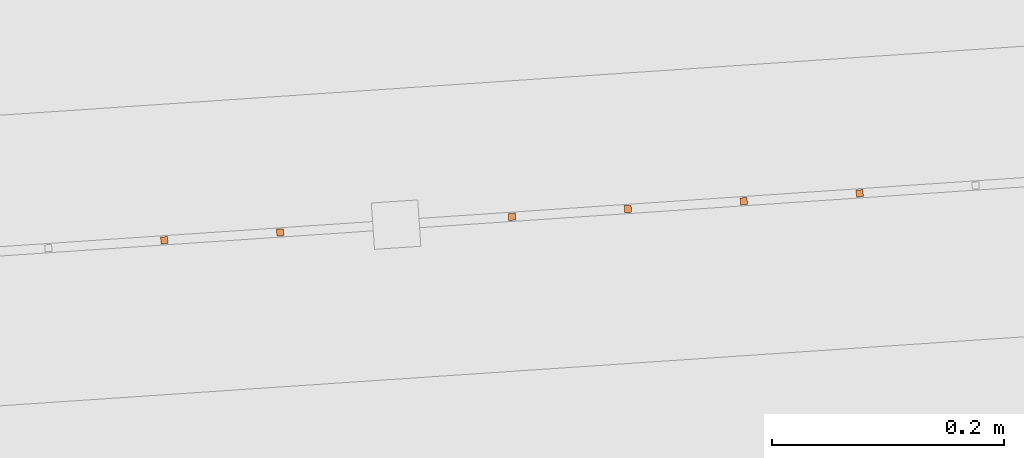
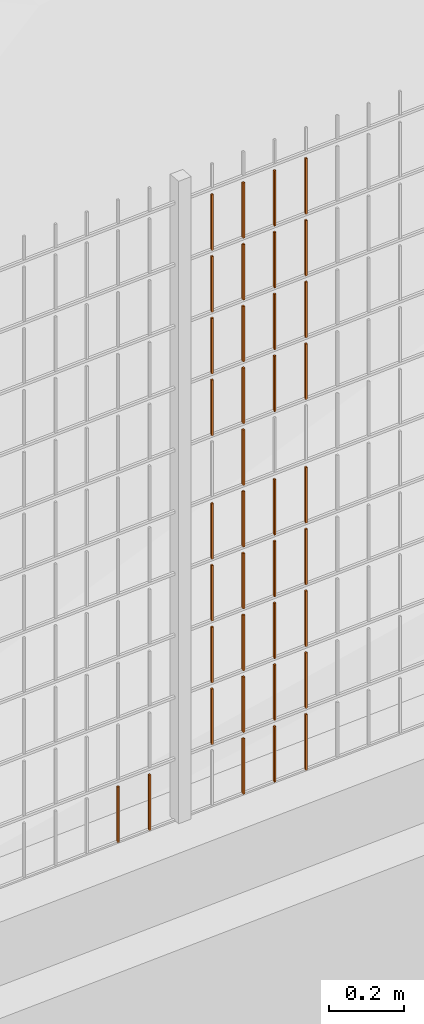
# One storey, part 74 of 1809: 38 proxies, 1 element without a shape of its own.
"""IFC2X3 building model written with IfcOpenShell, lengths in millimetres."""

from ifc_helpers import new_model, entity, si_unit, converted_unit, derived_unit, money_unit, direction, frame, origin_with_axes, place, context, subcontext, project, spatial, faceted_brep, source, transform, mapped, material, type_object, element, aggregate, save


model = new_model("IFC2X3")

# Units and contexts
model_context = context("Model", 3, precision=0.01, world=origin_with_axes(), true_north=direction((0.0, 1.0)))
body_context = subcontext(model_context, "Body", "Model", "MODEL_VIEW")
ifc_project = project(units=[si_unit("LENGTHUNIT", "METRE", prefix="MILLI"), si_unit("AREAUNIT", "SQUARE_METRE"), si_unit("VOLUMEUNIT", "CUBIC_METRE"), converted_unit("PLANEANGLEUNIT", "DEGREE", entity("IfcPlaneAngleMeasure", 0.0174532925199), si_unit("PLANEANGLEUNIT", "RADIAN"), dimensions=[0, 0, 0, 0, 0, 0, 0]), si_unit("SOLIDANGLEUNIT", "STERADIAN"), money_unit("EUR"), converted_unit("TIMEUNIT", "Year", entity("IfcTimeMeasure", 31556926.0), si_unit("TIMEUNIT", "SECOND"), dimensions=[0, 0, 1, 0, 0, 0, 0]), si_unit("MASSUNIT", "GRAM", prefix="KILO"), si_unit("THERMODYNAMICTEMPERATUREUNIT", "DEGREE_CELSIUS"), si_unit("LUMINOUSINTENSITYUNIT", "LUMEN"), si_unit("ENERGYUNIT", "JOULE", prefix="MEGA"), derived_unit("THERMALCONDUCTANCEUNIT", [(si_unit("POWERUNIT", "WATT"), 1), (si_unit("LENGTHUNIT", "METRE"), -1), (si_unit("THERMODYNAMICTEMPERATUREUNIT", "KELVIN"), -1)]), derived_unit("SPECIFICHEATCAPACITYUNIT", [(si_unit("ENERGYUNIT", "JOULE"), 1), (si_unit("MASSUNIT", "GRAM", prefix="KILO"), -1), (si_unit("THERMODYNAMICTEMPERATUREUNIT", "KELVIN"), -1)]), derived_unit("MASSDENSITYUNIT", [(si_unit("MASSUNIT", "GRAM", prefix="KILO"), 1), (si_unit("VOLUMEUNIT", "CUBIC_METRE"), -1)])], contexts=[model_context])

# Site, building, storey
site_placement = place(None, origin_with_axes())
site = spatial("IfcSite", under=ifc_project, at=site_placement, Name="Politse- ja Piirivalveameti ning Päästeameti ühishoone", CompositionType="ELEMENT")
building_placement = place(site_placement, origin_with_axes())
building = spatial("IfcBuilding", under=site, at=building_placement, Name="Politse- ja Piirivalveameti ning Päästeameti ühishoone", CompositionType="ELEMENT")
storey_placement = place(building_placement, origin_with_axes())
storey = spatial("IfcBuildingStorey", under=building, at=storey_placement, Name="Esimene korrus", CompositionType="ELEMENT", Elevation=0.0)

# Proxies
building_element_proxy_type_1 = type_object("IfcBuildingElementProxyType", Name="Railing Type", PredefinedType="NOTDEFINED")
proxy_1_placement = place(storey_placement, frame((89252.001212, -29183.4766571, 203.661247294), z_axis=(0.0, 0.0, 1.0), x_axis=(1.0, 0.0, 0.0)))
proxy_1 = element("IfcBuildingElementProxy", 1, at=proxy_1_placement, inside=storey, type_object=building_element_proxy_type_1, Name="PIIRDEAED")
ifc_material = material(Name="ET-03_Raud")
building_element_proxy_type_2 = type_object("IfcBuildingElementProxyType", Name="IfcBuildingElementProxy", PredefinedType="NOTDEFINED")
shared_shape_1 = source(origin_with_axes(), body_context, "Body", "Brep", [
    faceted_brep([(3.0, 3.0, -0.000752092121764), (-3.0, 3.0, -0.000752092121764), (-3.0, 3.0, 179.99926046), (3.0, 3.0, 179.99926046), (3.0, -3.0, 0.000752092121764), (-3.0, -3.0, 0.000752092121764), (-3.0, -3.0, 180.000764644), (3.0, -3.0, 180.000764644)], [[[0, 1, 2, 3]], [[0, 4, 5, 1]], [[1, 5, 6, 2]], [[3, 2, 6, 7]], [[4, 0, 3, 7]], [[5, 4, 7, 6]]]),
])
proxy_2_placement = place(proxy_1_placement, frame((-104388.822358, -24348.8457627, 801.004749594), z_axis=(0.0, 0.0, 1.0), x_axis=(1.0, 0.0, 0.0)))
proxy_2 = element("IfcBuildingElementProxy", 2, at=proxy_2_placement, type_object=building_element_proxy_type_2, material=ifc_material, Name="BALUSTER - 001", context=body_context, shape_type="MappedRepresentation", body=[
    mapped(shared_shape_1, transform((0.0, 0.0, 0.0), x_axis=(-0.0673926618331, 0.997726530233, 0.0), y_axis=(-0.997726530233, -0.0673926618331, 0.0), z_axis=(0.0, 0.0, 1.0))),
])
shared_shape_2 = source(origin_with_axes(), body_context, "Body", "Brep", [
    faceted_brep([(3.0, 3.0, -0.000752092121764), (-3.0, 3.0, -0.000752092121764), (-3.0, 3.0, 179.99926046), (3.0, 3.0, 179.99926046), (3.0, -3.0, 0.000752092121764), (-3.0, -3.0, 0.000752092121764), (-3.0, -3.0, 180.000764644), (3.0, -3.0, 180.000764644)], [[[0, 1, 2, 3]], [[0, 4, 5, 1]], [[1, 5, 6, 2]], [[3, 2, 6, 7]], [[4, 0, 3, 7]], [[5, 4, 7, 6]]]),
])
proxy_3_placement = place(proxy_1_placement, frame((-104189.277052, -24335.3672303, 801.054889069), z_axis=(0.0, 0.0, 1.0), x_axis=(1.0, 0.0, 0.0)))
proxy_3 = element("IfcBuildingElementProxy", 3, at=proxy_3_placement, type_object=building_element_proxy_type_2, material=ifc_material, Name="BALUSTER - 001", context=body_context, shape_type="MappedRepresentation", body=[
    mapped(shared_shape_2, transform((0.0, 0.0, 0.0), x_axis=(-0.0673926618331, 0.997726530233, 0.0), y_axis=(-0.997726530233, -0.0673926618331, 0.0), z_axis=(0.0, 0.0, 1.0))),
])
proxy_4_placement = place(proxy_1_placement, frame((-104488.595011, -24355.5850288, 1800.97967986), z_axis=(0.0, 0.0, 1.0), x_axis=(1.0, 0.0, 0.0)))
proxy_4 = element("IfcBuildingElementProxy", 4, at=proxy_4_placement, type_object=building_element_proxy_type_2, material=ifc_material, Name="BALUSTER - 001", context=body_context, shape_type="MappedRepresentation", body=[
    mapped(shared_shape_2, transform((0.0, 0.0, 0.0), x_axis=(-0.0673926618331, 0.997726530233, 0.0), y_axis=(-0.997726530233, -0.0673926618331, 0.0), z_axis=(0.0, 0.0, 1.0))),
])
shared_shape_3 = source(origin_with_axes(), body_context, "Body", "Brep", [
    faceted_brep([(3.0, 3.0, -0.000752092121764), (-3.0, 3.0, -0.000752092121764), (-3.0, 3.0, 179.99926046), (3.0, 3.0, 179.99926046), (3.0, -3.0, 0.000752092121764), (-3.0, -3.0, 0.000752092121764), (-3.0, -3.0, 180.000764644), (3.0, -3.0, 180.000764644)], [[[0, 1, 2, 3]], [[0, 4, 5, 1]], [[1, 5, 6, 2]], [[3, 2, 6, 7]], [[4, 0, 3, 7]], [[5, 4, 7, 6]]]),
])
proxy_5_placement = place(proxy_1_placement, frame((-104488.595011, -24355.5850288, 1200.97967986), z_axis=(0.0, 0.0, 1.0), x_axis=(1.0, 0.0, 0.0)))
proxy_5 = element("IfcBuildingElementProxy", 5, at=proxy_5_placement, type_object=building_element_proxy_type_2, material=ifc_material, Name="BALUSTER - 001", context=body_context, shape_type="MappedRepresentation", body=[
    mapped(shared_shape_3, transform((0.0, 0.0, 0.0), x_axis=(-0.0673926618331, 0.997726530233, 0.0), y_axis=(-0.997726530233, -0.0673926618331, 0.0), z_axis=(0.0, 0.0, 1.0))),
])
shared_shape_4 = source(origin_with_axes(), body_context, "Body", "Brep", [
    faceted_brep([(3.0, 3.0, -0.000752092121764), (-3.0, 3.0, -0.000752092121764), (-3.0, 3.0, 179.99926046), (3.0, 3.0, 179.99926046), (3.0, -3.0, 0.000752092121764), (-3.0, -3.0, 0.000752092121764), (-3.0, -3.0, 180.000764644), (3.0, -3.0, 180.000764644)], [[[0, 1, 2, 3]], [[0, 4, 5, 1]], [[1, 5, 6, 2]], [[3, 2, 6, 7]], [[4, 0, 3, 7]], [[5, 4, 7, 6]]]),
])
proxy_6_placement = place(proxy_1_placement, frame((-104388.822358, -24348.8457627, 201.004749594), z_axis=(0.0, 0.0, 1.0), x_axis=(1.0, 0.0, 0.0)))
proxy_6 = element("IfcBuildingElementProxy", 6, at=proxy_6_placement, type_object=building_element_proxy_type_2, material=ifc_material, Name="BALUSTER - 001", context=body_context, shape_type="MappedRepresentation", body=[
    mapped(shared_shape_4, transform((0.0, 0.0, 0.0), x_axis=(-0.0673926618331, 0.997726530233, 0.0), y_axis=(-0.997726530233, -0.0673926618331, 0.0), z_axis=(0.0, 0.0, 1.0))),
])
proxy_7_placement = place(proxy_1_placement, frame((-104388.822358, -24348.8457627, 401.004749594), z_axis=(0.0, 0.0, 1.0), x_axis=(1.0, 0.0, 0.0)))
proxy_7 = element("IfcBuildingElementProxy", 7, at=proxy_7_placement, type_object=building_element_proxy_type_2, material=ifc_material, Name="BALUSTER - 001", context=body_context, shape_type="MappedRepresentation", body=[
    mapped(shared_shape_4, transform((0.0, 0.0, 0.0), x_axis=(-0.0673926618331, 0.997726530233, 0.0), y_axis=(-0.997726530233, -0.0673926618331, 0.0), z_axis=(0.0, 0.0, 1.0))),
])
proxy_8_placement = place(proxy_1_placement, frame((-104189.277052, -24335.3672303, 601.054889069), z_axis=(0.0, 0.0, 1.0), x_axis=(1.0, 0.0, 0.0)))
proxy_8 = element("IfcBuildingElementProxy", 8, at=proxy_8_placement, type_object=building_element_proxy_type_2, material=ifc_material, Name="BALUSTER - 001", context=body_context, shape_type="MappedRepresentation", body=[
    mapped(shared_shape_4, transform((0.0, 0.0, 0.0), x_axis=(-0.0673926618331, 0.997726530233, 0.0), y_axis=(-0.997726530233, -0.0673926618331, 0.0), z_axis=(0.0, 0.0, 1.0))),
])
proxy_9_placement = place(proxy_1_placement, frame((-104388.822358, -24348.8457627, 601.004749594), z_axis=(0.0, 0.0, 1.0), x_axis=(1.0, 0.0, 0.0)))
proxy_9 = element("IfcBuildingElementProxy", 9, at=proxy_9_placement, type_object=building_element_proxy_type_2, material=ifc_material, Name="BALUSTER - 001", context=body_context, shape_type="MappedRepresentation", body=[
    mapped(shared_shape_4, transform((0.0, 0.0, 0.0), x_axis=(-0.0673926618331, 0.997726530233, 0.0), y_axis=(-0.997726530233, -0.0673926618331, 0.0), z_axis=(0.0, 0.0, 1.0))),
])
shared_shape_5 = source(origin_with_axes(), body_context, "Body", "Brep", [
    faceted_brep([(3.0, 3.0, -0.000752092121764), (-3.0, 3.0, -0.000752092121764), (-3.0, 3.0, 179.99926046), (3.0, 3.0, 179.99926046), (3.0, -3.0, 0.000752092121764), (-3.0, -3.0, 0.000752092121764), (-3.0, -3.0, 180.000764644), (3.0, -3.0, 180.000764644)], [[[0, 1, 2, 3]], [[0, 4, 5, 1]], [[1, 5, 6, 2]], [[3, 2, 6, 7]], [[4, 0, 3, 7]], [[5, 4, 7, 6]]]),
])
proxy_10_placement = place(proxy_1_placement, frame((-104388.822358, -24348.8457627, 1.00474959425), z_axis=(0.0, 0.0, 1.0), x_axis=(1.0, 0.0, 0.0)))
proxy_10 = element("IfcBuildingElementProxy", 10, at=proxy_10_placement, type_object=building_element_proxy_type_2, material=ifc_material, Name="BALUSTER - 001", context=body_context, shape_type="MappedRepresentation", body=[
    mapped(shared_shape_5, transform((0.0, 0.0, 0.0), x_axis=(-0.0673926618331, 0.997726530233, 0.0), y_axis=(-0.997726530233, -0.0673926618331, 0.0), z_axis=(0.0, 0.0, 1.0))),
])
shared_shape_6 = source(origin_with_axes(), body_context, "Body", "Brep", [
    faceted_brep([(3.0, 3.0, -0.000752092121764), (-3.0, 3.0, -0.000752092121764), (-3.0, 3.0, 179.99926046), (3.0, 3.0, 179.99926046), (3.0, -3.0, 0.000752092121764), (-3.0, -3.0, 0.000752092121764), (-3.0, -3.0, 180.000764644), (3.0, -3.0, 180.000764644)], [[[0, 1, 2, 3]], [[0, 4, 5, 1]], [[1, 5, 6, 2]], [[3, 2, 6, 7]], [[4, 0, 3, 7]], [[5, 4, 7, 6]]]),
])
proxy_11_placement = place(proxy_1_placement, frame((-104289.049705, -24342.1064965, 1.02981933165), z_axis=(0.0, 0.0, 1.0), x_axis=(1.0, 0.0, 0.0)))
proxy_11 = element("IfcBuildingElementProxy", 11, at=proxy_11_placement, type_object=building_element_proxy_type_2, material=ifc_material, Name="BALUSTER - 001", context=body_context, shape_type="MappedRepresentation", body=[
    mapped(shared_shape_6, transform((0.0, 0.0, 0.0), x_axis=(-0.0673926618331, 0.997726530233, 0.0), y_axis=(-0.997726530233, -0.0673926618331, 0.0), z_axis=(0.0, 0.0, 1.0))),
])
shared_shape_7 = source(origin_with_axes(), body_context, "Body", "Brep", [
    faceted_brep([(3.0, 3.0, -0.000752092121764), (-3.0, 3.0, -0.000752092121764), (-3.0, 3.0, 179.99926046), (3.0, 3.0, 179.99926046), (3.0, -3.0, 0.000752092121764), (-3.0, -3.0, 0.000752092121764), (-3.0, -3.0, 180.000764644), (3.0, -3.0, 180.000764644)], [[[0, 1, 2, 3]], [[0, 4, 5, 1]], [[1, 5, 6, 2]], [[3, 2, 6, 7]], [[4, 0, 3, 7]], [[5, 4, 7, 6]]]),
])
proxy_12_placement = place(proxy_1_placement, frame((-104289.049705, -24342.1064965, 401.029819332), z_axis=(0.0, 0.0, 1.0), x_axis=(1.0, 0.0, 0.0)))
proxy_12 = element("IfcBuildingElementProxy", 12, at=proxy_12_placement, type_object=building_element_proxy_type_2, material=ifc_material, Name="BALUSTER - 001", context=body_context, shape_type="MappedRepresentation", body=[
    mapped(shared_shape_7, transform((0.0, 0.0, 0.0), x_axis=(-0.0673926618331, 0.997726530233, 0.0), y_axis=(-0.997726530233, -0.0673926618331, 0.0), z_axis=(0.0, 0.0, 1.0))),
])
proxy_13_placement = place(proxy_1_placement, frame((-104289.049705, -24342.1064965, 601.029819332), z_axis=(0.0, 0.0, 1.0), x_axis=(1.0, 0.0, 0.0)))
proxy_13 = element("IfcBuildingElementProxy", 13, at=proxy_13_placement, type_object=building_element_proxy_type_2, material=ifc_material, Name="BALUSTER - 001", context=body_context, shape_type="MappedRepresentation", body=[
    mapped(shared_shape_7, transform((0.0, 0.0, 0.0), x_axis=(-0.0673926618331, 0.997726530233, 0.0), y_axis=(-0.997726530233, -0.0673926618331, 0.0), z_axis=(0.0, 0.0, 1.0))),
])
shared_shape_8 = source(origin_with_axes(), body_context, "Body", "Brep", [
    faceted_brep([(3.0, 3.0, -0.000752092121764), (-3.0, 3.0, -0.000752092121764), (-3.0, 3.0, 179.99926046), (3.0, 3.0, 179.99926046), (3.0, -3.0, 0.000752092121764), (-3.0, -3.0, 0.000752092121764), (-3.0, -3.0, 180.000764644), (3.0, -3.0, 180.000764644)], [[[0, 1, 2, 3]], [[0, 4, 5, 1]], [[1, 5, 6, 2]], [[3, 2, 6, 7]], [[4, 0, 3, 7]], [[5, 4, 7, 6]]]),
])
proxy_14_placement = place(proxy_1_placement, frame((-104289.049705, -24342.1064965, 201.029819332), z_axis=(0.0, 0.0, 1.0), x_axis=(1.0, 0.0, 0.0)))
proxy_14 = element("IfcBuildingElementProxy", 14, at=proxy_14_placement, type_object=building_element_proxy_type_2, material=ifc_material, Name="BALUSTER - 001", context=body_context, shape_type="MappedRepresentation", body=[
    mapped(shared_shape_8, transform((0.0, 0.0, 0.0), x_axis=(-0.0673926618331, 0.997726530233, 0.0), y_axis=(-0.997726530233, -0.0673926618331, 0.0), z_axis=(0.0, 0.0, 1.0))),
])
shared_shape_9 = source(origin_with_axes(), body_context, "Body", "Brep", [
    faceted_brep([(3.0, 3.0, -0.000752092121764), (-3.0, 3.0, -0.000752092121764), (-3.0, 3.0, 179.99926046), (3.0, 3.0, 179.99926046), (3.0, -3.0, 0.000752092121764), (-3.0, -3.0, 0.000752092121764), (-3.0, -3.0, 180.000764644), (3.0, -3.0, 180.000764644)], [[[0, 1, 2, 3]], [[0, 4, 5, 1]], [[1, 5, 6, 2]], [[3, 2, 6, 7]], [[4, 0, 3, 7]], [[5, 4, 7, 6]]]),
])
proxy_15_placement = place(proxy_1_placement, frame((-104289.049705, -24342.1064965, 1801.02981933), z_axis=(0.0, 0.0, 1.0), x_axis=(1.0, 0.0, 0.0)))
proxy_15 = element("IfcBuildingElementProxy", 15, at=proxy_15_placement, type_object=building_element_proxy_type_2, material=ifc_material, Name="BALUSTER - 001", context=body_context, shape_type="MappedRepresentation", body=[
    mapped(shared_shape_9, transform((0.0, 0.0, 0.0), x_axis=(-0.0673926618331, 0.997726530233, 0.0), y_axis=(-0.997726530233, -0.0673926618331, 0.0), z_axis=(0.0, 0.0, 1.0))),
])
proxy_16_placement = place(proxy_1_placement, frame((-104388.822358, -24348.8457627, 1801.00474959), z_axis=(0.0, 0.0, 1.0), x_axis=(1.0, 0.0, 0.0)))
proxy_16 = element("IfcBuildingElementProxy", 16, at=proxy_16_placement, type_object=building_element_proxy_type_2, material=ifc_material, Name="BALUSTER - 001", context=body_context, shape_type="MappedRepresentation", body=[
    mapped(shared_shape_9, transform((0.0, 0.0, 0.0), x_axis=(-0.0673926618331, 0.997726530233, 0.0), y_axis=(-0.997726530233, -0.0673926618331, 0.0), z_axis=(0.0, 0.0, 1.0))),
])
shared_shape_10 = source(origin_with_axes(), body_context, "Body", "Brep", [
    faceted_brep([(3.0, 3.0, -0.000752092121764), (-3.0, 3.0, -0.000752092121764), (-3.0, 3.0, 179.99926046), (3.0, 3.0, 179.99926046), (3.0, -3.0, 0.000752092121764), (-3.0, -3.0, 0.000752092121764), (-3.0, -3.0, 180.000764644), (3.0, -3.0, 180.000764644)], [[[0, 1, 2, 3]], [[0, 4, 5, 1]], [[1, 5, 6, 2]], [[3, 2, 6, 7]], [[4, 0, 3, 7]], [[5, 4, 7, 6]]]),
])
proxy_17_placement = place(proxy_1_placement, frame((-104488.595011, -24355.5850288, 1400.97967986), z_axis=(0.0, 0.0, 1.0), x_axis=(1.0, 0.0, 0.0)))
proxy_17 = element("IfcBuildingElementProxy", 17, at=proxy_17_placement, type_object=building_element_proxy_type_2, material=ifc_material, Name="BALUSTER - 001", context=body_context, shape_type="MappedRepresentation", body=[
    mapped(shared_shape_10, transform((0.0, 0.0, 0.0), x_axis=(-0.0673926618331, 0.997726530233, 0.0), y_axis=(-0.997726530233, -0.0673926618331, 0.0), z_axis=(0.0, 0.0, 1.0))),
])
proxy_18_placement = place(proxy_1_placement, frame((-104488.595011, -24355.5850288, 1600.97967986), z_axis=(0.0, 0.0, 1.0), x_axis=(1.0, 0.0, 0.0)))
proxy_18 = element("IfcBuildingElementProxy", 18, at=proxy_18_placement, type_object=building_element_proxy_type_2, material=ifc_material, Name="BALUSTER - 001", context=body_context, shape_type="MappedRepresentation", body=[
    mapped(shared_shape_10, transform((0.0, 0.0, 0.0), x_axis=(-0.0673926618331, 0.997726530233, 0.0), y_axis=(-0.997726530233, -0.0673926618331, 0.0), z_axis=(0.0, 0.0, 1.0))),
])
shared_shape_11 = source(origin_with_axes(), body_context, "Body", "Brep", [
    faceted_brep([(3.0, 3.0, -0.000752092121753), (-3.0, 3.0, -0.000752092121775), (-3.0, 3.0, 179.99926046), (3.0, 3.0, 179.99926046), (3.0, -3.0, 0.000752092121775), (-3.0, -3.0, 0.000752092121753), (-3.0, -3.0, 180.000764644), (3.0, -3.0, 180.000764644)], [[[0, 1, 2, 3]], [[0, 4, 5, 1]], [[1, 5, 6, 2]], [[3, 2, 6, 7]], [[4, 0, 3, 7]], [[5, 4, 7, 6]]]),
])
proxy_19_placement = place(proxy_1_placement, frame((-104488.595011, -24355.5850288, 400.979679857), z_axis=(0.0, 0.0, 1.0), x_axis=(1.0, 0.0, 0.0)))
proxy_19 = element("IfcBuildingElementProxy", 19, at=proxy_19_placement, type_object=building_element_proxy_type_2, material=ifc_material, Name="BALUSTER - 001", context=body_context, shape_type="MappedRepresentation", body=[
    mapped(shared_shape_11, transform((0.0, 0.0, 0.0), x_axis=(-0.0673926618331, 0.997726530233, 0.0), y_axis=(-0.997726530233, -0.0673926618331, 0.0), z_axis=(0.0, 0.0, 1.0))),
])
shared_shape_12 = source(origin_with_axes(), body_context, "Body", "Brep", [
    faceted_brep([(3.0, 3.0, -0.000752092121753), (-3.0, 3.0, -0.000752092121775), (-3.0, 3.0, 179.99926046), (3.0, 3.0, 179.99926046), (3.0, -3.0, 0.000752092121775), (-3.0, -3.0, 0.000752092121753), (-3.0, -3.0, 180.000764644), (3.0, -3.0, 180.000764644)], [[[0, 1, 2, 3]], [[0, 4, 5, 1]], [[1, 5, 6, 2]], [[3, 2, 6, 7]], [[4, 0, 3, 7]], [[5, 4, 7, 6]]]),
])
proxy_20_placement = place(proxy_1_placement, frame((-104488.595011, -24355.5850288, 200.979679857), z_axis=(0.0, 0.0, 1.0), x_axis=(1.0, 0.0, 0.0)))
proxy_20 = element("IfcBuildingElementProxy", 20, at=proxy_20_placement, type_object=building_element_proxy_type_2, material=ifc_material, Name="BALUSTER - 001", context=body_context, shape_type="MappedRepresentation", body=[
    mapped(shared_shape_12, transform((0.0, 0.0, 0.0), x_axis=(-0.0673926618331, 0.997726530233, 0.0), y_axis=(-0.997726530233, -0.0673926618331, 0.0), z_axis=(0.0, 0.0, 1.0))),
])
proxy_21_placement = place(proxy_1_placement, frame((-104488.595011, -24355.5850288, 600.979679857), z_axis=(0.0, 0.0, 1.0), x_axis=(1.0, 0.0, 0.0)))
proxy_21 = element("IfcBuildingElementProxy", 21, at=proxy_21_placement, type_object=building_element_proxy_type_2, material=ifc_material, Name="BALUSTER - 001", context=body_context, shape_type="MappedRepresentation", body=[
    mapped(shared_shape_12, transform((0.0, 0.0, 0.0), x_axis=(-0.0673926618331, 0.997726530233, 0.0), y_axis=(-0.997726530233, -0.0673926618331, 0.0), z_axis=(0.0, 0.0, 1.0))),
])
shared_shape_13 = source(origin_with_axes(), body_context, "Body", "Brep", [
    faceted_brep([(3.0, 3.0, -0.000752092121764), (-3.0, 3.0, -0.000752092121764), (-3.0, 3.0, 179.99926046), (3.0, 3.0, 179.99926046), (3.0, -3.0, 0.000752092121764), (-3.0, -3.0, 0.000752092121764), (-3.0, -3.0, 180.000764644), (3.0, -3.0, 180.000764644)], [[[0, 1, 2, 3]], [[0, 4, 5, 1]], [[1, 5, 6, 2]], [[3, 2, 6, 7]], [[4, 0, 3, 7]], [[5, 4, 7, 6]]]),
])
proxy_22_placement = place(proxy_1_placement, frame((-104289.049705, -24342.1064965, 801.029819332), z_axis=(0.0, 0.0, 1.0), x_axis=(1.0, 0.0, 0.0)))
proxy_22 = element("IfcBuildingElementProxy", 22, at=proxy_22_placement, type_object=building_element_proxy_type_2, material=ifc_material, Name="BALUSTER - 001", context=body_context, shape_type="MappedRepresentation", body=[
    mapped(shared_shape_13, transform((0.0, 0.0, 0.0), x_axis=(-0.0673926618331, 0.997726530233, 0.0), y_axis=(-0.997726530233, -0.0673926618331, 0.0), z_axis=(0.0, 0.0, 1.0))),
])
proxy_23_placement = place(proxy_1_placement, frame((-104289.049705, -24342.1064965, 1201.02981933), z_axis=(0.0, 0.0, 1.0), x_axis=(1.0, 0.0, 0.0)))
proxy_23 = element("IfcBuildingElementProxy", 23, at=proxy_23_placement, type_object=building_element_proxy_type_2, material=ifc_material, Name="BALUSTER - 001", context=body_context, shape_type="MappedRepresentation", body=[
    mapped(shared_shape_13, transform((0.0, 0.0, 0.0), x_axis=(-0.0673926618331, 0.997726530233, 0.0), y_axis=(-0.997726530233, -0.0673926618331, 0.0), z_axis=(0.0, 0.0, 1.0))),
])
proxy_24_placement = place(proxy_1_placement, frame((-104388.822358, -24348.8457627, 1201.00474959), z_axis=(0.0, 0.0, 1.0), x_axis=(1.0, 0.0, 0.0)))
proxy_24 = element("IfcBuildingElementProxy", 24, at=proxy_24_placement, type_object=building_element_proxy_type_2, material=ifc_material, Name="BALUSTER - 001", context=body_context, shape_type="MappedRepresentation", body=[
    mapped(shared_shape_13, transform((0.0, 0.0, 0.0), x_axis=(-0.0673926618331, 0.997726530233, 0.0), y_axis=(-0.997726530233, -0.0673926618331, 0.0), z_axis=(0.0, 0.0, 1.0))),
])
shared_shape_14 = source(origin_with_axes(), body_context, "Body", "Brep", [
    faceted_brep([(3.0, 3.0, -0.000752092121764), (-3.0, 3.0, -0.000752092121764), (-3.0, 3.0, 179.99926046), (3.0, 3.0, 179.99926046), (3.0, -3.0, 0.000752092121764), (-3.0, -3.0, 0.000752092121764), (-3.0, -3.0, 180.000764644), (3.0, -3.0, 180.000764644)], [[[0, 1, 2, 3]], [[0, 4, 5, 1]], [[1, 5, 6, 2]], [[3, 2, 6, 7]], [[4, 0, 3, 7]], [[5, 4, 7, 6]]]),
])
proxy_25_placement = place(proxy_1_placement, frame((-104289.049705, -24342.1064965, 1401.02981933), z_axis=(0.0, 0.0, 1.0), x_axis=(1.0, 0.0, 0.0)))
proxy_25 = element("IfcBuildingElementProxy", 25, at=proxy_25_placement, type_object=building_element_proxy_type_2, material=ifc_material, Name="BALUSTER - 001", context=body_context, shape_type="MappedRepresentation", body=[
    mapped(shared_shape_14, transform((0.0, 0.0, 0.0), x_axis=(-0.0673926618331, 0.997726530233, 0.0), y_axis=(-0.997726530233, -0.0673926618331, 0.0), z_axis=(0.0, 0.0, 1.0))),
])
proxy_26_placement = place(proxy_1_placement, frame((-104388.822358, -24348.8457627, 1401.00474959), z_axis=(0.0, 0.0, 1.0), x_axis=(1.0, 0.0, 0.0)))
proxy_26 = element("IfcBuildingElementProxy", 26, at=proxy_26_placement, type_object=building_element_proxy_type_2, material=ifc_material, Name="BALUSTER - 001", context=body_context, shape_type="MappedRepresentation", body=[
    mapped(shared_shape_14, transform((0.0, 0.0, 0.0), x_axis=(-0.0673926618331, 0.997726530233, 0.0), y_axis=(-0.997726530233, -0.0673926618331, 0.0), z_axis=(0.0, 0.0, 1.0))),
])
proxy_27_placement = place(proxy_1_placement, frame((-104289.049705, -24342.1064965, 1601.02981933), z_axis=(0.0, 0.0, 1.0), x_axis=(1.0, 0.0, 0.0)))
proxy_27 = element("IfcBuildingElementProxy", 27, at=proxy_27_placement, type_object=building_element_proxy_type_2, material=ifc_material, Name="BALUSTER - 001", context=body_context, shape_type="MappedRepresentation", body=[
    mapped(shared_shape_14, transform((0.0, 0.0, 0.0), x_axis=(-0.0673926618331, 0.997726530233, 0.0), y_axis=(-0.997726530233, -0.0673926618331, 0.0), z_axis=(0.0, 0.0, 1.0))),
])
proxy_28_placement = place(proxy_1_placement, frame((-104388.822358, -24348.8457627, 1601.00474959), z_axis=(0.0, 0.0, 1.0), x_axis=(1.0, 0.0, 0.0)))
proxy_28 = element("IfcBuildingElementProxy", 28, at=proxy_28_placement, type_object=building_element_proxy_type_2, material=ifc_material, Name="BALUSTER - 001", context=body_context, shape_type="MappedRepresentation", body=[
    mapped(shared_shape_14, transform((0.0, 0.0, 0.0), x_axis=(-0.0673926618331, 0.997726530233, 0.0), y_axis=(-0.997726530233, -0.0673926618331, 0.0), z_axis=(0.0, 0.0, 1.0))),
])
shared_shape_15 = source(origin_with_axes(), body_context, "Body", "Brep", [
    faceted_brep([(3.0, 3.0, -0.000752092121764), (-3.0, 3.0, -0.000752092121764), (-3.0, 3.0, 179.99926046), (3.0, 3.0, 179.99926046), (3.0, -3.0, 0.000752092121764), (-3.0, -3.0, 0.000752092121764), (-3.0, -3.0, 180.000764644), (3.0, -3.0, 180.000764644)], [[[0, 1, 2, 3]], [[0, 4, 5, 1]], [[1, 5, 6, 2]], [[3, 2, 6, 7]], [[4, 0, 3, 7]], [[5, 4, 7, 6]]]),
])
proxy_29_placement = place(proxy_1_placement, frame((-104189.277052, -24335.3672303, 401.054889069), z_axis=(0.0, 0.0, 1.0), x_axis=(1.0, 0.0, 0.0)))
proxy_29 = element("IfcBuildingElementProxy", 29, at=proxy_29_placement, type_object=building_element_proxy_type_2, material=ifc_material, Name="BALUSTER - 001", context=body_context, shape_type="MappedRepresentation", body=[
    mapped(shared_shape_15, transform((0.0, 0.0, 0.0), x_axis=(-0.0673926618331, 0.997726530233, 0.0), y_axis=(-0.997726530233, -0.0673926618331, 0.0), z_axis=(0.0, 0.0, 1.0))),
])
shared_shape_16 = source(origin_with_axes(), body_context, "Body", "Brep", [
    faceted_brep([(3.0, 3.0, -0.000752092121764), (-3.0, 3.0, -0.000752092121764), (-3.0, 3.0, 179.99926046), (3.0, 3.0, 179.99926046), (3.0, -3.0, 0.000752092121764), (-3.0, -3.0, 0.000752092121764), (-3.0, -3.0, 180.000764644), (3.0, -3.0, 180.000764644)], [[[0, 1, 2, 3]], [[0, 4, 5, 1]], [[1, 5, 6, 2]], [[3, 2, 6, 7]], [[4, 0, 3, 7]], [[5, 4, 7, 6]]]),
])
proxy_30_placement = place(proxy_1_placement, frame((-104189.277052, -24335.3672303, 1.05488906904), z_axis=(0.0, 0.0, 1.0), x_axis=(1.0, 0.0, 0.0)))
proxy_30 = element("IfcBuildingElementProxy", 30, at=proxy_30_placement, type_object=building_element_proxy_type_2, material=ifc_material, Name="BALUSTER - 001", context=body_context, shape_type="MappedRepresentation", body=[
    mapped(shared_shape_16, transform((0.0, 0.0, 0.0), x_axis=(-0.0673926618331, 0.997726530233, 0.0), y_axis=(-0.997726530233, -0.0673926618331, 0.0), z_axis=(0.0, 0.0, 1.0))),
])
proxy_31_placement = place(proxy_1_placement, frame((-104787.91297, -24375.8028274, 0.904470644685), z_axis=(0.0, 0.0, 1.0), x_axis=(1.0, 0.0, 0.0)))
proxy_31 = element("IfcBuildingElementProxy", 31, at=proxy_31_placement, type_object=building_element_proxy_type_2, material=ifc_material, Name="BALUSTER - 001", context=body_context, shape_type="MappedRepresentation", body=[
    mapped(shared_shape_16, transform((0.0, 0.0, 0.0), x_axis=(-0.0673926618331, 0.997726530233, 0.0), y_axis=(-0.997726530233, -0.0673926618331, 0.0), z_axis=(0.0, 0.0, 1.0))),
])
shared_shape_17 = source(origin_with_axes(), body_context, "Body", "Brep", [
    faceted_brep([(3.0, 3.0, -0.000752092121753), (-3.0, 3.0, -0.000752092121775), (-3.0, 3.0, 179.99926046), (3.0, 3.0, 179.99926046), (3.0, -3.0, 0.000752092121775), (-3.0, -3.0, 0.000752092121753), (-3.0, -3.0, 180.000764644), (3.0, -3.0, 180.000764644)], [[[0, 1, 2, 3]], [[0, 4, 5, 1]], [[1, 5, 6, 2]], [[3, 2, 6, 7]], [[4, 0, 3, 7]], [[5, 4, 7, 6]]]),
])
proxy_32_placement = place(proxy_1_placement, frame((-104488.595011, -24355.5850288, 800.979679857), z_axis=(0.0, 0.0, 1.0), x_axis=(1.0, 0.0, 0.0)))
proxy_32 = element("IfcBuildingElementProxy", 32, at=proxy_32_placement, type_object=building_element_proxy_type_2, material=ifc_material, Name="BALUSTER - 001", context=body_context, shape_type="MappedRepresentation", body=[
    mapped(shared_shape_17, transform((0.0, 0.0, 0.0), x_axis=(-0.0673926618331, 0.997726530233, 0.0), y_axis=(-0.997726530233, -0.0673926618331, 0.0), z_axis=(0.0, 0.0, 1.0))),
])
proxy_33_placement = place(proxy_1_placement, frame((-104189.277052, -24335.3672303, 1801.05488907), z_axis=(0.0, 0.0, 1.0), x_axis=(1.0, 0.0, 0.0)))
proxy_33 = element("IfcBuildingElementProxy", 33, at=proxy_33_placement, type_object=building_element_proxy_type_2, material=ifc_material, Name="BALUSTER - 001", context=body_context, shape_type="MappedRepresentation", body=[
    mapped(shared_shape_17, transform((0.0, 0.0, 0.0), x_axis=(-0.0673926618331, 0.997726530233, 0.0), y_axis=(-0.997726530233, -0.0673926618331, 0.0), z_axis=(0.0, 0.0, 1.0))),
])
shared_shape_18 = source(origin_with_axes(), body_context, "Body", "Brep", [
    faceted_brep([(3.0, 3.0, -0.000752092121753), (-3.0, 3.0, -0.000752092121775), (-3.0, 3.0, 179.99926046), (3.0, 3.0, 179.99926046), (3.0, -3.0, 0.000752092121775), (-3.0, -3.0, 0.000752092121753), (-3.0, -3.0, 180.000764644), (3.0, -3.0, 180.000764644)], [[[0, 1, 2, 3]], [[0, 4, 5, 1]], [[1, 5, 6, 2]], [[3, 2, 6, 7]], [[4, 0, 3, 7]], [[5, 4, 7, 6]]]),
])
proxy_34_placement = place(proxy_1_placement, frame((-104189.277052, -24335.3672303, 1201.05488907), z_axis=(0.0, 0.0, 1.0), x_axis=(1.0, 0.0, 0.0)))
proxy_34 = element("IfcBuildingElementProxy", 34, at=proxy_34_placement, type_object=building_element_proxy_type_2, material=ifc_material, Name="BALUSTER - 001", context=body_context, shape_type="MappedRepresentation", body=[
    mapped(shared_shape_18, transform((0.0, 0.0, 0.0), x_axis=(-0.0673926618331, 0.997726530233, 0.0), y_axis=(-0.997726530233, -0.0673926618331, 0.0), z_axis=(0.0, 0.0, 1.0))),
])
shared_shape_19 = source(origin_with_axes(), body_context, "Body", "Brep", [
    faceted_brep([(3.0, 3.0, -0.000752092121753), (-3.0, 3.0, -0.000752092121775), (-3.0, 3.0, 179.99926046), (3.0, 3.0, 179.99926046), (3.0, -3.0, 0.000752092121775), (-3.0, -3.0, 0.000752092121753), (-3.0, -3.0, 180.000764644), (3.0, -3.0, 180.000764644)], [[[0, 1, 2, 3]], [[0, 4, 5, 1]], [[1, 5, 6, 2]], [[3, 2, 6, 7]], [[4, 0, 3, 7]], [[5, 4, 7, 6]]]),
])
proxy_35_placement = place(proxy_1_placement, frame((-104189.277052, -24335.3672303, 1401.05488907), z_axis=(0.0, 0.0, 1.0), x_axis=(1.0, 0.0, 0.0)))
proxy_35 = element("IfcBuildingElementProxy", 35, at=proxy_35_placement, type_object=building_element_proxy_type_2, material=ifc_material, Name="BALUSTER - 001", context=body_context, shape_type="MappedRepresentation", body=[
    mapped(shared_shape_19, transform((0.0, 0.0, 0.0), x_axis=(-0.0673926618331, 0.997726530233, 0.0), y_axis=(-0.997726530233, -0.0673926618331, 0.0), z_axis=(0.0, 0.0, 1.0))),
])
proxy_36_placement = place(proxy_1_placement, frame((-104189.277052, -24335.3672303, 1601.05488907), z_axis=(0.0, 0.0, 1.0), x_axis=(1.0, 0.0, 0.0)))
proxy_36 = element("IfcBuildingElementProxy", 36, at=proxy_36_placement, type_object=building_element_proxy_type_2, material=ifc_material, Name="BALUSTER - 001", context=body_context, shape_type="MappedRepresentation", body=[
    mapped(shared_shape_19, transform((0.0, 0.0, 0.0), x_axis=(-0.0673926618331, 0.997726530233, 0.0), y_axis=(-0.997726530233, -0.0673926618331, 0.0), z_axis=(0.0, 0.0, 1.0))),
])
shared_shape_20 = source(origin_with_axes(), body_context, "Body", "Brep", [
    faceted_brep([(3.0, 3.0, -0.000752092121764), (-3.0, 3.0, -0.000752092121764), (-3.0, 3.0, 179.99926046), (3.0, 3.0, 179.99926046), (3.0, -3.0, 0.000752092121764), (-3.0, -3.0, 0.000752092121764), (-3.0, -3.0, 180.000764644), (3.0, -3.0, 180.000764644)], [[[0, 1, 2, 3]], [[0, 4, 5, 1]], [[1, 5, 6, 2]], [[3, 2, 6, 7]], [[4, 0, 3, 7]], [[5, 4, 7, 6]]]),
])
proxy_37_placement = place(proxy_1_placement, frame((-104189.277052, -24335.3672303, 201.054889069), z_axis=(0.0, 0.0, 1.0), x_axis=(1.0, 0.0, 0.0)))
proxy_37 = element("IfcBuildingElementProxy", 37, at=proxy_37_placement, type_object=building_element_proxy_type_2, material=ifc_material, Name="BALUSTER - 001", context=body_context, shape_type="MappedRepresentation", body=[
    mapped(shared_shape_20, transform((0.0, 0.0, 0.0), x_axis=(-0.0673926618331, 0.997726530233, 0.0), y_axis=(-0.997726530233, -0.0673926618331, 0.0), z_axis=(0.0, 0.0, 1.0))),
])
shared_shape_21 = source(origin_with_axes(), body_context, "Body", "Brep", [
    faceted_brep([(3.0, 3.0, -0.000752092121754), (-3.0, 3.0, -0.000752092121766), (-3.00000000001, 3.00000000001, 179.99926046), (2.99999999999, 3.00000000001, 179.99926046), (3.0, -3.0, 0.000752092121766), (-3.0, -3.0, 0.000752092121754), (-3.00000000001, -2.99999999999, 180.000764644), (2.99999999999, -2.99999999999, 180.000764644)], [[[0, 1, 2, 3]], [[0, 4, 5, 1]], [[1, 5, 6, 2]], [[3, 2, 6, 7]], [[4, 0, 3, 7]], [[5, 4, 7, 6]]]),
])
proxy_38_placement = place(proxy_1_placement, frame((-104388.822358, -24348.8457627, 1001.00474959), z_axis=(0.0, 0.0, 1.0), x_axis=(1.0, 0.0, 0.0)))
proxy_38 = element("IfcBuildingElementProxy", 38, at=proxy_38_placement, type_object=building_element_proxy_type_2, material=ifc_material, Name="BALUSTER - 001", context=body_context, shape_type="MappedRepresentation", body=[
    mapped(shared_shape_21, transform((0.0, 0.0, 0.0), x_axis=(-0.0673926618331, 0.997726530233, 0.0), y_axis=(-0.997726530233, -0.0673926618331, 0.0), z_axis=(0.0, 0.0, 1.0))),
])
shared_shape_22 = source(origin_with_axes(), body_context, "Body", "Brep", [
    faceted_brep([(3.0, 3.0, -0.000752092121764), (-3.0, 3.0, -0.000752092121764), (-3.0, 3.0, 179.99926046), (3.0, 3.0, 179.99926046), (3.0, -3.0, 0.000752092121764), (-3.0, -3.0, 0.000752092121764), (-3.0, -3.0, 180.000764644), (3.0, -3.0, 180.000764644)], [[[0, 1, 2, 3]], [[0, 4, 5, 1]], [[1, 5, 6, 2]], [[3, 2, 6, 7]], [[4, 0, 3, 7]], [[5, 4, 7, 6]]]),
])
proxy_39_placement = place(proxy_1_placement, frame((-104688.140317, -24369.0635612, 0.929540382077), z_axis=(0.0, 0.0, 1.0), x_axis=(1.0, 0.0, 0.0)))
proxy_39 = element("IfcBuildingElementProxy", 39, at=proxy_39_placement, type_object=building_element_proxy_type_2, material=ifc_material, Name="BALUSTER - 001", context=body_context, shape_type="MappedRepresentation", body=[
    mapped(shared_shape_22, transform((0.0, 0.0, 0.0), x_axis=(-0.0673926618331, 0.997726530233, 0.0), y_axis=(-0.997726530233, -0.0673926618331, 0.0), z_axis=(0.0, 0.0, 1.0))),
])
aggregate(proxy_1, [proxy_30, proxy_11, proxy_10, proxy_37, proxy_14, proxy_6, proxy_20, proxy_29, proxy_12, proxy_7, proxy_19, proxy_8, proxy_13, proxy_9, proxy_21, proxy_3, proxy_22, proxy_2, proxy_32, proxy_38, proxy_34, proxy_23, proxy_24, proxy_5, proxy_35, proxy_25, proxy_26, proxy_17, proxy_36, proxy_27, proxy_28, proxy_18, proxy_33, proxy_15, proxy_16, proxy_4, proxy_39, proxy_31])

save(model, "model.ifc")
